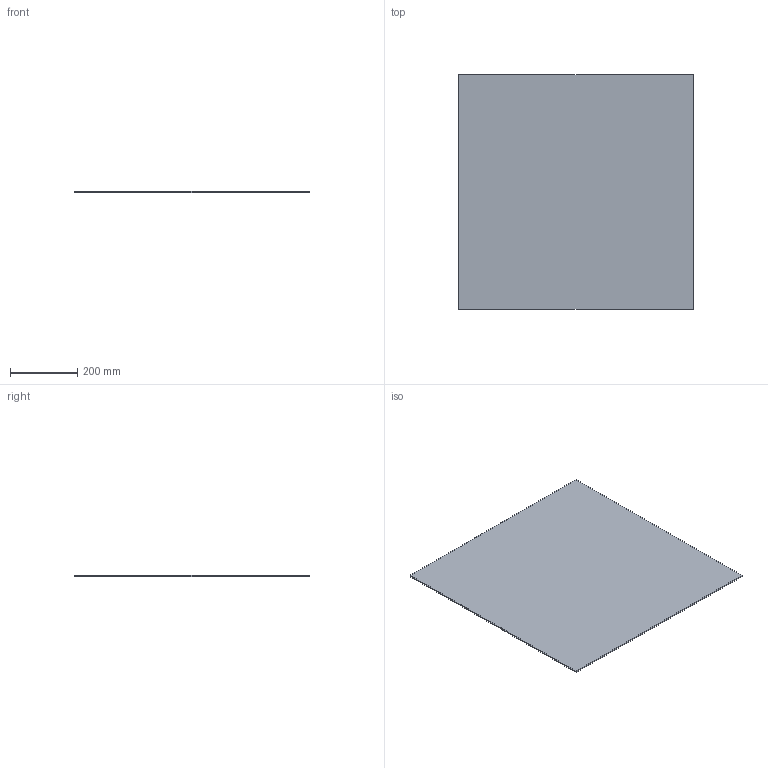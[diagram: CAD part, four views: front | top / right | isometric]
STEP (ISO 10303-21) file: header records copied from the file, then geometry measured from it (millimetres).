
FILE_DESCRIPTION(/* description */ (''),/* implementation_level */ '2;1');
FILE_NAME(/* name */ 'GE-CUL.step',/* time_stamp */ '2025-12-16T16:25:22+03:00',/* author */ (''),/* organization */ (''),/* preprocessor_version */ 'ST-DEVELOPER v20.1',/* originating_system */ 'Autodesk Translation Framework v14.21.0.0',/* authorisation */ '');
FILE_SCHEMA (('AUTOMOTIVE_DESIGN { 1 0 10303 214 3 1 1 }'));
Length unit declared in the file: millimetre
Products named in the file (1): GE-CUL
Bounding box: 700 x 700 x 4 mm (x, y, z)
Volume: 1960000 mm3; surface area: 991200 mm2
Topology: 1 solids, 1 shells, 6 faces, 12 edges, 8 vertices
Faces by surface type: plane 6
Entity records: 196 total; most frequent: CARTESIAN_POINT 27, DIRECTION 26, ORIENTED_EDGE 24, LINE 12, VECTOR 12, EDGE_CURVE 12, VERTEX_POINT 8, AXIS2_PLACEMENT_3D 7
